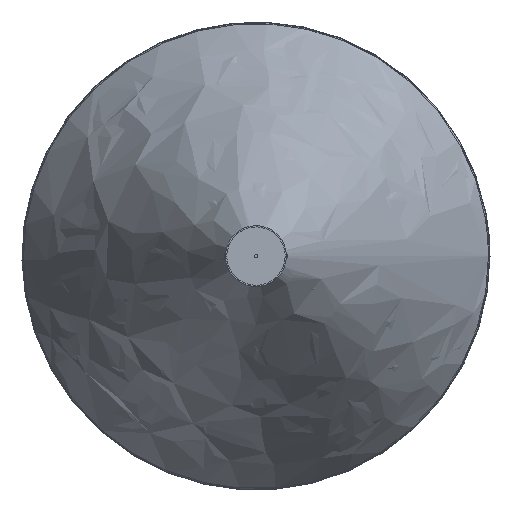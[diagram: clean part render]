
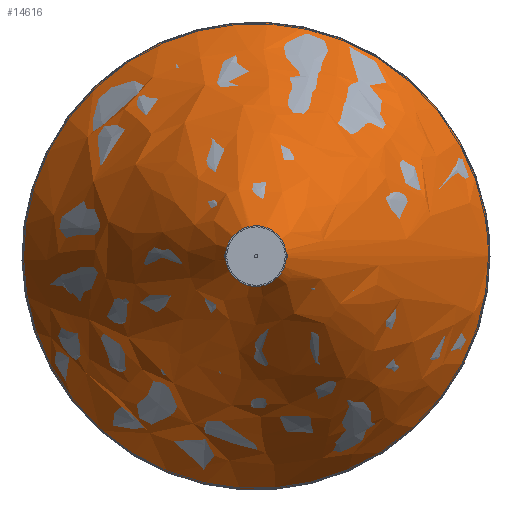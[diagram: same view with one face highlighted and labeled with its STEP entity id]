
A CAD part, front view. The second image highlights one B-rep face of the part: STEP entity #14616.
In plain terms, the highlighted free-form (B-spline) face has degree [1, 2] with [2, 9] control points.
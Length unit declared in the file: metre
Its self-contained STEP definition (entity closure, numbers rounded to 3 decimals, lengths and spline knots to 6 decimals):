
#14531 = CARTESIAN_POINT ('', (38.5, 170.4, 0.));
#14532 = VERTEX_POINT ('', #14531);
#14540 = CARTESIAN_POINT ('', (38.5, 170.4, 0.));
#14541 = CARTESIAN_POINT ('', (38.5, 170.4, -38.5));
#14542 = CARTESIAN_POINT ('', (0., 170.4, -38.5));
#14543 = CARTESIAN_POINT ('', (-38.5, 170.4, -38.5));
#14544 = CARTESIAN_POINT ('', (-38.5, 170.4, 0.));
#14545 = CARTESIAN_POINT ('', (-38.5, 170.4, 38.5));
#14546 = CARTESIAN_POINT ('', (0., 170.4, 38.5));
#14547 = CARTESIAN_POINT ('', (38.5, 170.4, 38.5));
#14548 = CARTESIAN_POINT ('', (38.5, 170.4, 0.));
#14549 = (
   BOUNDED_CURVE ()
   B_SPLINE_CURVE (2, (#14540, #14541, #14542, #14543, #14544, #14545, #14546, #14547, #14548), .UNSPECIFIED., .T., .U.)
   B_SPLINE_CURVE_WITH_KNOTS ((3, 2, 2, 2, 3), (0., 0.25, 0.5, 0.75, 1.), .UNSPECIFIED.)
   CURVE ()
   GEOMETRIC_REPRESENTATION_ITEM ()
   RATIONAL_B_SPLINE_CURVE ((1., 0.707, 1., 0.707, 1., 0.707, 1., 0.707, 1.))
   REPRESENTATION_ITEM ('')
);
#14550 = EDGE_CURVE ('', #14532, #14532, #14549, .T.);
#14574 = CARTESIAN_POINT ('', (2.284159, 103.921607, 0.));
#14575 = VERTEX_POINT ('', #14574);
#14576 = CARTESIAN_POINT ('', (38.5, 170.4, 0.));
#14577 = CARTESIAN_POINT ('', (2.284159, 103.921607, 0.));
#14578 = B_SPLINE_CURVE_WITH_KNOTS ('', 1, (#14576, #14577), .UNSPECIFIED., .F., .U., (2, 2), (7.954986, 8.943339), .UNSPECIFIED.);
#14579 = EDGE_CURVE ('', #14532, #14575, #14578, .T.);
#14580 = ORIENTED_EDGE ('', *, *, #14579, .F.);
#14581 = ORIENTED_EDGE ('', *, *, #14550, .F.);
#14582 = ORIENTED_EDGE ('', *, *, #14579, .T.);
#14583 = CARTESIAN_POINT ('', (2.284159, 103.921607, 0.));
#14584 = CARTESIAN_POINT ('', (2.284159, 103.921607, -2.284159));
#14585 = CARTESIAN_POINT ('', (0., 103.921607, -2.284159));
#14586 = CARTESIAN_POINT ('', (-2.284159, 103.921607, -2.284159));
#14587 = CARTESIAN_POINT ('', (-2.284159, 103.921607, 0.));
#14588 = CARTESIAN_POINT ('', (-2.284159, 103.921607, 2.284159));
#14589 = CARTESIAN_POINT ('', (0., 103.921607, 2.284159));
#14590 = CARTESIAN_POINT ('', (2.284159, 103.921607, 2.284159));
#14591 = CARTESIAN_POINT ('', (2.284159, 103.921607, 0.));
#14592 = (
   BOUNDED_CURVE ()
   B_SPLINE_CURVE (2, (#14583, #14584, #14585, #14586, #14587, #14588, #14589, #14590, #14591), .UNSPECIFIED., .T., .U.)
   B_SPLINE_CURVE_WITH_KNOTS ((3, 2, 2, 2, 3), (0., 0.25, 0.5, 0.75, 1.), .UNSPECIFIED.)
   CURVE ()
   GEOMETRIC_REPRESENTATION_ITEM ()
   RATIONAL_B_SPLINE_CURVE ((1., 0.707, 1., 0.707, 1., 0.707, 1., 0.707, 1.))
   REPRESENTATION_ITEM ('')
);
#14593 = EDGE_CURVE ('', #14575, #14575, #14592, .T.);
#14594 = ORIENTED_EDGE ('', *, *, #14593, .T.);
#14595 = EDGE_LOOP ('', (#14580, #14581, #14582, #14594));
#14596 = FACE_OUTER_BOUND ('', #14595, .T.);
#14597 = CARTESIAN_POINT ('', (38.5, 170.4, 0.));
#14598 = CARTESIAN_POINT ('', (38.5, 170.4, -38.5));
#14599 = CARTESIAN_POINT ('', (0., 170.4, -38.5));
#14600 = CARTESIAN_POINT ('', (-38.5, 170.4, -38.5));
#14601 = CARTESIAN_POINT ('', (-38.5, 170.4, 0.));
#14602 = CARTESIAN_POINT ('', (-38.5, 170.4, 38.5));
#14603 = CARTESIAN_POINT ('', (0., 170.4, 38.5));
#14604 = CARTESIAN_POINT ('', (38.5, 170.4, 38.5));
#14605 = CARTESIAN_POINT ('', (38.5, 170.4, 0.));
#14606 = CARTESIAN_POINT ('', (2.284159, 103.921607, 0.));
#14607 = CARTESIAN_POINT ('', (2.284159, 103.921607, -2.284159));
#14608 = CARTESIAN_POINT ('', (0., 103.921607, -2.284159));
#14609 = CARTESIAN_POINT ('', (-2.284159, 103.921607, -2.284159));
#14610 = CARTESIAN_POINT ('', (-2.284159, 103.921607, 0.));
#14611 = CARTESIAN_POINT ('', (-2.284159, 103.921607, 2.284159));
#14612 = CARTESIAN_POINT ('', (0., 103.921607, 2.284159));
#14613 = CARTESIAN_POINT ('', (2.284159, 103.921607, 2.284159));
#14614 = CARTESIAN_POINT ('', (2.284159, 103.921607, 0.));
#14615 = (
   BOUNDED_SURFACE ()
   B_SPLINE_SURFACE (1, 2, ((#14597, #14598, #14599, #14600, #14601, #14602, #14603, #14604, #14605), (#14606, #14607, #14608, #14609, #14610, #14611, #14612, #14613, #14614)), .UNSPECIFIED., .F., .T., .U.)
   B_SPLINE_SURFACE_WITH_KNOTS ((2, 2), (3, 2, 2, 2, 3), (7.954986, 8.943339), (0., 0.25, 0.5, 0.75, 1.), .UNSPECIFIED.)
   SURFACE ()
   GEOMETRIC_REPRESENTATION_ITEM ()
   RATIONAL_B_SPLINE_SURFACE (((1., 0.707, 1., 0.707, 1., 0.707, 1., 0.707, 1.), (1., 0.707, 1., 0.707, 1., 0.707, 1., 0.707, 1.)))
   REPRESENTATION_ITEM ('')
);
#14616 = ADVANCED_FACE ('', (#14596), #14615, .T.);
